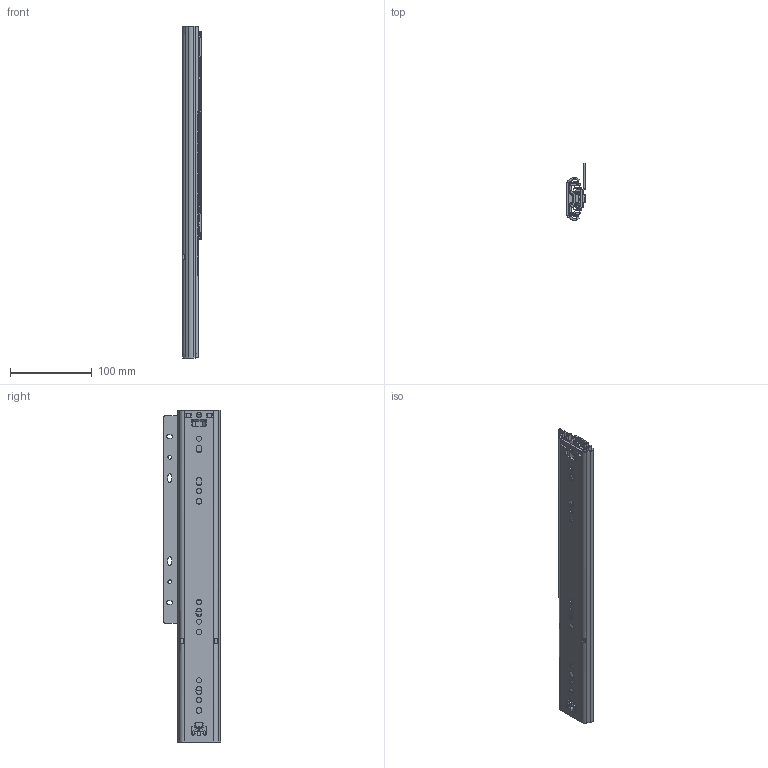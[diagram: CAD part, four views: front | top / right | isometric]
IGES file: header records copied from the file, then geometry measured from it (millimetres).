
Global section: file name: No Iges File Name specified; native system: Autodesk Inventor 2012; preprocessor: AutoDesk Inventor Iges Exporter R2012; author: HV83751; date: 20130708.085754; units: inch
Bounding box: 22.61 x 70.18 x 406.41 mm (x, y, z)
Surface area: 191219.4 mm2
Topology: 6 solids, 23 shells, 1435 faces, 4243 edges, 2736 vertices
Faces by surface type: plane 730, revolution 374, cylinder 282, bspline 40, torus 9
